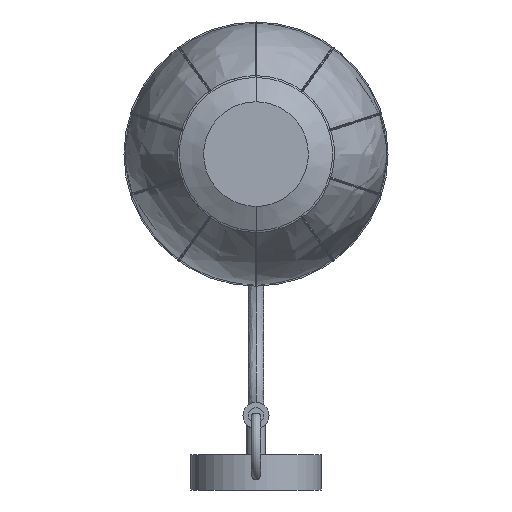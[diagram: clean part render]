
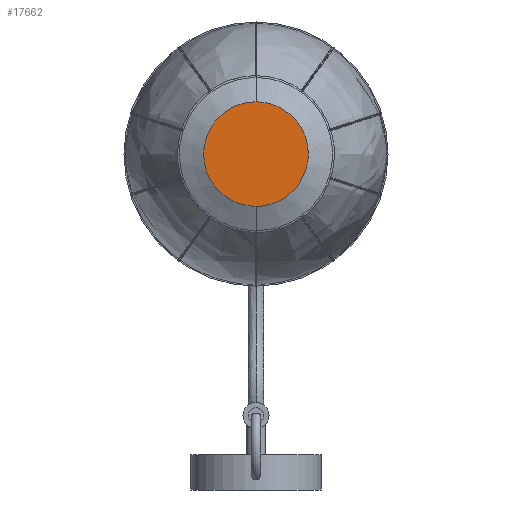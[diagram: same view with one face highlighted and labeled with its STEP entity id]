
A CAD part, front view. The second image highlights one B-rep face of the part: STEP entity #17662.
In plain terms, the highlighted planar face has unit normal (0, -1, 0).
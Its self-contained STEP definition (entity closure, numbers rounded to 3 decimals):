
#32 = CARTESIAN_POINT ( 'NONE',  ( -485.459, 62.186, 860.425 ) ) ;
#43 = CARTESIAN_POINT ( 'NONE',  ( -509.858, 62.186, 932.23 ) ) ;
#106 = CARTESIAN_POINT ( 'NONE',  ( -509.858, 62.186, 868.621 ) ) ;
#145 = CARTESIAN_POINT ( 'NONE',  ( -465.412, 62.186, 935.138 ) ) ;
#535 = CARTESIAN_POINT ( 'NONE',  ( -461.059, 62.186, 868.621 ) ) ;
#1344 = CARTESIAN_POINT ( 'NONE',  ( -495.83, 62.186, 861.705 ) ) ;
#1379 = CARTESIAN_POINT ( 'NONE',  ( -467.732, 62.186, 936.379 ) ) ;
#1409 = CARTESIAN_POINT ( 'NONE',  ( -505.505, 62.186, 935.138 ) ) ;
#1620 = CARTESIAN_POINT ( 'NONE',  ( -525.201, 62.186, 895.189 ) ) ;
#1681 = VERTEX_POINT ( 'NONE', #32 ) ;
#2010 = B_SPLINE_CURVE_WITH_KNOTS ( 'NONE', 3,
 ( #2795, #19306, #7442, #1344, #10507, #17991, #10309, #106, #4565, #7508, #11800, #2861, #4493, #3130, #15010, #1620, #6074, #12065, #16437, #11995, #14818, #17927, #13576, #9080, #17728, #13372, #43, #1409, #4432, #16312, #4635, #15080, #16249, #13314 ),
 .UNSPECIFIED., .F., .F.,
 ( 4, 2, 2, 2, 2, 2, 2, 2, 2, 2, 2, 2, 2, 2, 2, 2, 4 ),
 ( 0.5, 0.531, 0.563, 0.594, 0.625, 0.656, 0.688, 0.719, 0.75, 0.781, 0.813, 0.844, 0.875, 0.906, 0.938, 0.969, 1. ),
 .UNSPECIFIED. ) ;
#2795 = CARTESIAN_POINT ( 'NONE',  ( -485.459, 62.186, 860.425 ) ) ;
#2861 = CARTESIAN_POINT ( 'NONE',  ( -520.172, 62.186, 880.379 ) ) ;
#2899 = CARTESIAN_POINT ( 'NONE',  ( -459.025, 62.186, 930.561 ) ) ;
#3130 = CARTESIAN_POINT ( 'NONE',  ( -523.416, 62.186, 887.537 ) ) ;
#3428 = CARTESIAN_POINT ( 'NONE',  ( -453.654, 62.186, 876.026 ) ) ;
#3491 = CARTESIAN_POINT ( 'NONE',  ( -446.738, 62.186, 910.797 ) ) ;
#3551 = CARTESIAN_POINT ( 'NONE',  ( -450.745, 62.186, 920.471 ) ) ;
#4432 = CARTESIAN_POINT ( 'NONE',  ( -503.185, 62.186, 936.379 ) ) ;
#4493 = CARTESIAN_POINT ( 'NONE',  ( -521.412, 62.186, 882.699 ) ) ;
#4565 = CARTESIAN_POINT ( 'NONE',  ( -511.892, 62.186, 870.29 ) ) ;
#4635 = CARTESIAN_POINT ( 'NONE',  ( -495.83, 62.186, 939.146 ) ) ;
#4983 = CARTESIAN_POINT ( 'NONE',  ( -465.412, 62.186, 865.712 ) ) ;
#5046 = CARTESIAN_POINT ( 'NONE',  ( -467.732, 62.186, 864.472 ) ) ;
#5111 = CARTESIAN_POINT ( 'NONE',  ( -485.459, 62.186, 860.425 ) ) ;
#5475 = EDGE_LOOP ( 'NONE', ( #12937, #16409 ) ) ;
#5976 = CARTESIAN_POINT ( 'NONE',  ( -480.223, 62.186, 940.167 ) ) ;
#6074 = CARTESIAN_POINT ( 'NONE',  ( -525.459, 62.186, 897.807 ) ) ;
#6686 = CARTESIAN_POINT ( 'NONE',  ( -480.223, 62.186, 860.683 ) ) ;
#7442 = CARTESIAN_POINT ( 'NONE',  ( -490.694, 62.186, 860.683 ) ) ;
#7476 = CARTESIAN_POINT ( 'NONE',  ( -475.087, 62.186, 939.146 ) ) ;
#7508 = CARTESIAN_POINT ( 'NONE',  ( -515.594, 62.186, 873.992 ) ) ;
#7936 = CARTESIAN_POINT ( 'NONE',  ( -459.025, 62.186, 870.29 ) ) ;
#8127 = CARTESIAN_POINT ( 'NONE',  ( -445.716, 62.186, 905.661 ) ) ;
#8187 = CARTESIAN_POINT ( 'NONE',  ( -449.505, 62.186, 882.699 ) ) ;
#8594 = PLANE ( 'NONE',  #19097 ) ;
#8794 = CARTESIAN_POINT ( 'NONE',  ( -485.459, 62.186, 900.425 ) ) ;
#9080 = CARTESIAN_POINT ( 'NONE',  ( -517.263, 62.186, 924.825 ) ) ;
#9109 = CARTESIAN_POINT ( 'NONE',  ( -472.57, 62.186, 938.382 ) ) ;
#9501 = CARTESIAN_POINT ( 'NONE',  ( -449.505, 62.186, 918.151 ) ) ;
#9621 = CARTESIAN_POINT ( 'NONE',  ( -475.087, 62.186, 861.705 ) ) ;
#10309 = CARTESIAN_POINT ( 'NONE',  ( -505.505, 62.186, 865.712 ) ) ;
#10345 = CARTESIAN_POINT ( 'NONE',  ( -485.459, 62.186, 940.425 ) ) ;
#10457 = FACE_OUTER_BOUND ( 'NONE', #5475, .T. ) ;
#10507 = CARTESIAN_POINT ( 'NONE',  ( -498.347, 62.186, 862.468 ) ) ;
#10988 = CARTESIAN_POINT ( 'NONE',  ( -482.841, 62.186, 860.425 ) ) ;
#11049 = CARTESIAN_POINT ( 'NONE',  ( -447.501, 62.186, 887.537 ) ) ;
#11204 = CARTESIAN_POINT ( 'NONE',  ( -485.459, 62.186, 940.425 ) ) ;
#11800 = CARTESIAN_POINT ( 'NONE',  ( -517.263, 62.186, 876.026 ) ) ;
#11836 = CARTESIAN_POINT ( 'NONE',  ( -461.059, 62.186, 932.23 ) ) ;
#11995 = CARTESIAN_POINT ( 'NONE',  ( -524.179, 62.186, 910.797 ) ) ;
#12065 = CARTESIAN_POINT ( 'NONE',  ( -525.459, 62.186, 903.043 ) ) ;
#12937 = ORIENTED_EDGE ( 'NONE', *, *, #15384, .F. ) ;
#13157 = DIRECTION ( 'NONE',  ( 0., 0., 1. ) ) ;
#13227 = DIRECTION ( 'NONE',  ( 0., 1., 0. ) ) ;
#13314 = CARTESIAN_POINT ( 'NONE',  ( -485.459, 62.186, 940.425 ) ) ;
#13345 = CARTESIAN_POINT ( 'NONE',  ( -455.323, 62.186, 926.858 ) ) ;
#13372 = CARTESIAN_POINT ( 'NONE',  ( -511.892, 62.186, 930.561 ) ) ;
#13576 = CARTESIAN_POINT ( 'NONE',  ( -520.172, 62.186, 920.471 ) ) ;
#14004 = CARTESIAN_POINT ( 'NONE',  ( -472.57, 62.186, 862.468 ) ) ;
#14063 = CARTESIAN_POINT ( 'NONE',  ( -445.459, 62.186, 903.043 ) ) ;
#14109 = VERTEX_POINT ( 'NONE', #11204 ) ;
#14126 = CARTESIAN_POINT ( 'NONE',  ( -445.459, 62.186, 897.807 ) ) ;
#14818 = CARTESIAN_POINT ( 'NONE',  ( -523.416, 62.186, 913.314 ) ) ;
#14851 = CARTESIAN_POINT ( 'NONE',  ( -453.654, 62.186, 924.825 ) ) ;
#15010 = CARTESIAN_POINT ( 'NONE',  ( -524.179, 62.186, 890.054 ) ) ;
#15080 = CARTESIAN_POINT ( 'NONE',  ( -490.694, 62.186, 940.167 ) ) ;
#15371 = CARTESIAN_POINT ( 'NONE',  ( -455.323, 62.186, 873.992 ) ) ;
#15384 = EDGE_CURVE ( 'NONE', #14109, #1681, #17482, .T. ) ;
#15555 = CARTESIAN_POINT ( 'NONE',  ( -446.738, 62.186, 890.054 ) ) ;
#16249 = CARTESIAN_POINT ( 'NONE',  ( -488.076, 62.186, 940.425 ) ) ;
#16312 = CARTESIAN_POINT ( 'NONE',  ( -498.347, 62.186, 938.382 ) ) ;
#16409 = ORIENTED_EDGE ( 'NONE', *, *, #18738, .F. ) ;
#16437 = CARTESIAN_POINT ( 'NONE',  ( -525.201, 62.186, 905.661 ) ) ;
#16548 = CARTESIAN_POINT ( 'NONE',  ( -482.841, 62.186, 940.425 ) ) ;
#17482 = B_SPLINE_CURVE_WITH_KNOTS ( 'NONE', 3,
 ( #10345, #16548, #5976, #7476, #9109, #1379, #145, #11836, #2899, #13345, #14851, #3551, #9501, #18547, #3491, #8127, #14063, #14126, #18355, #15555, #11049, #8187, #18422, #3428, #15371, #7936, #535, #4983, #5046, #14004, #9621, #6686, #10988, #5111 ),
 .UNSPECIFIED., .F., .F.,
 ( 4, 2, 2, 2, 2, 2, 2, 2, 2, 2, 2, 2, 2, 2, 2, 2, 4 ),
 ( 0., 0.031, 0.063, 0.094, 0.125, 0.156, 0.188, 0.219, 0.25, 0.281, 0.313, 0.344, 0.375, 0.406, 0.438, 0.469, 0.5 ),
 .UNSPECIFIED. ) ;
#17662 = ADVANCED_FACE ( 'NONE', ( #10457 ), #8594, .F. ) ;
#17728 = CARTESIAN_POINT ( 'NONE',  ( -515.594, 62.186, 926.858 ) ) ;
#17927 = CARTESIAN_POINT ( 'NONE',  ( -521.412, 62.186, 918.151 ) ) ;
#17991 = CARTESIAN_POINT ( 'NONE',  ( -503.185, 62.186, 864.472 ) ) ;
#18355 = CARTESIAN_POINT ( 'NONE',  ( -445.716, 62.186, 895.189 ) ) ;
#18422 = CARTESIAN_POINT ( 'NONE',  ( -450.745, 62.186, 880.379 ) ) ;
#18547 = CARTESIAN_POINT ( 'NONE',  ( -447.501, 62.186, 913.314 ) ) ;
#18738 = EDGE_CURVE ( 'NONE', #1681, #14109, #2010, .T. ) ;
#19097 = AXIS2_PLACEMENT_3D ( 'NONE', #8794, #13227, #13157 ) ;
#19306 = CARTESIAN_POINT ( 'NONE',  ( -488.076, 62.186, 860.425 ) ) ;
